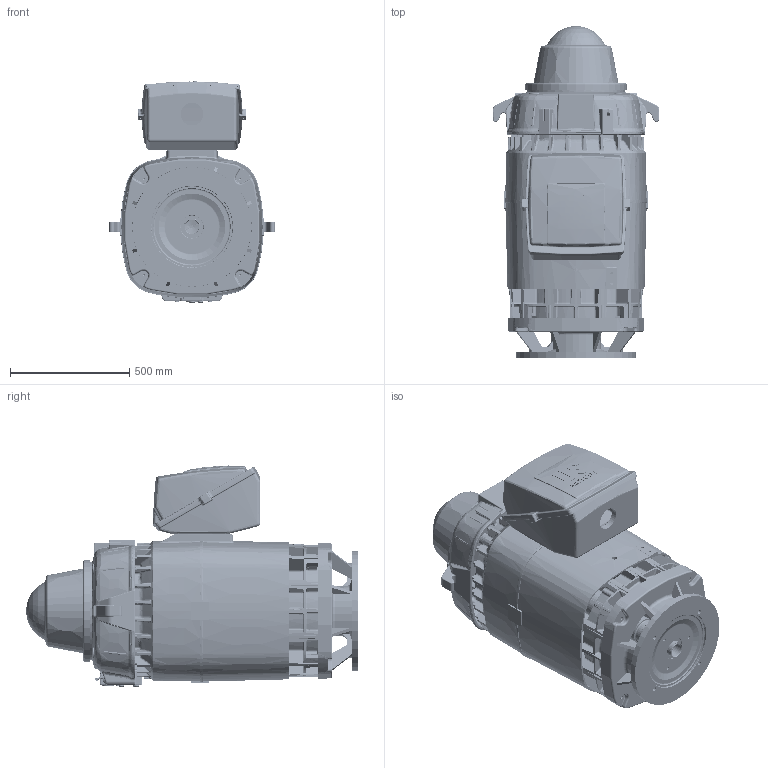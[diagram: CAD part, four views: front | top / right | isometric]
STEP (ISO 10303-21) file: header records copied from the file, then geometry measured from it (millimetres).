
FILE_DESCRIPTION((''),'2;1');
FILE_NAME('447_VERT_ASM','2015-08-12T',('NMC2342'),('Nidec Motor Corporation'),'PRO/ENGINEER BY PARAMETRIC TECHNOLOGY CORPORATION, 2013150','PRO/ENGINEER BY PARAMETRIC TECHNOLOGY CORPORATION, 2013150','');
FILE_SCHEMA(('CONFIG_CONTROL_DESIGN'));
Products named in the file (18): 0915306; 0452181; 0452496-000; 0989208; 0452496_ASM; 0189778; 0004398; 0452185; 0890157; 0888416-CVR; 0988193; 0989210; 0132591; 0396021; 0582109; 0005808; 0530429; 447_VERT_ASM
Assembly tree (18 placements, depth 3):
  447_VERT_ASM
    0915306
    0452181
    0452496_ASM
      0452496-000
      0989208
    0189778
    0004398
    0452185
    0890157
    0888416-CVR
    0988193
    0989210
    0132591
    0396021
    0582109
    0005808
    0530429  x2
Bounding box: 698.26 x 1393.01 x 927.84 mm (x, y, z)
Volume: 63427734.5 mm3; surface area: 10922392.1 mm2
Topology: 19 solids, 19 shells, 8434 faces, 20642 edges, 12227 vertices
Faces by surface type: bspline 3415, plane 1688, cylinder 1552, torus 768, cone 553, sphere 381, extrusion 56, revolution 21
Entity records: 368462 total; most frequent: CARTESIAN_POINT 197166, ORIENTED_EDGE 41020, DIRECTION 28662, EDGE_CURVE 20510, VERTEX_POINT 12198, AXIS2_PLACEMENT_3D 11887, B_SPLINE_CURVE_WITH_KNOTS 8846, EDGE_LOOP 8666
